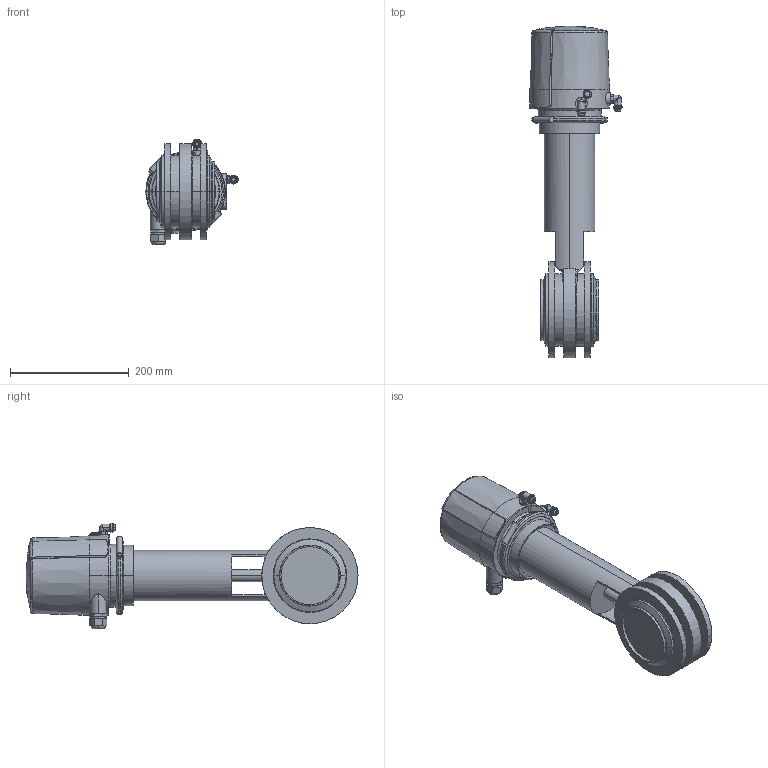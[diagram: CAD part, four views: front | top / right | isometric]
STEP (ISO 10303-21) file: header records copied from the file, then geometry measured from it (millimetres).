
FILE_DESCRIPTION(('Creo Elements/Direct Modeling STEP Export'),'2;1');
FILE_NAME('SVS1F-4zoll-CU4.stp','2013-05-24T12:27:19',(''),(''),'Creo Elements/Direct Modeling STEP processor for AP214 (Solid Model)','Creo Elements/Direct Modeling 17.0D 15-Jul-2011 (C) Parametric Technology GmbH','');
FILE_SCHEMA(('AUTOMOTIVE_DESIGN { 1 0 10303 214 1 1 1 1 }'));
Length unit declared in the file: millimetre
Products named in the file (4): Luftanschluß; SVS1F-4zoll-CU4; CU41-mit-T-Adapter
Assembly tree (3 placements, depth 2):
  SVS1F-4zoll-CU4
    CU41-mit-T-Adapter
    SVS1F-4zoll-CU4
    Luftanschluß
Bounding box: 155.4 x 559.44 x 177.6 mm (x, y, z)
Volume: 4477387.9 mm3; surface area: 335414.7 mm2
Topology: 3 solids, 9 shells, 466 faces, 1184 edges, 753 vertices
Faces by surface type: plane 205, cylinder 150, torus 55, cone 40, bspline 10, sphere 6
Entity records: 23293 total; most frequent: CARTESIAN_POINT 11826, ORIENTED_EDGE 2380, DIRECTION 2042, EDGE_CURVE 1182, AXIS2_PLACEMENT_3D 781, VERTEX_POINT 753, EDGE_LOOP 515, VECTOR 480
